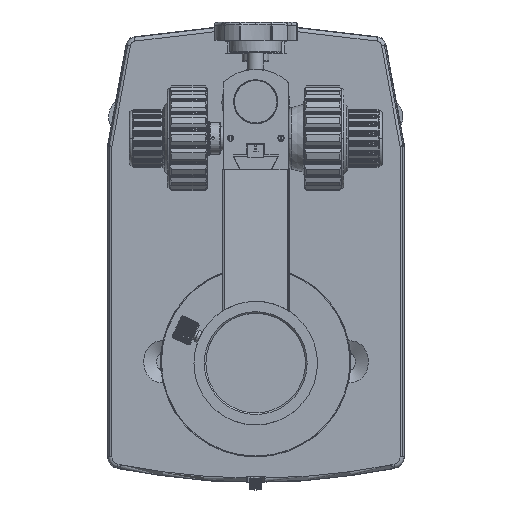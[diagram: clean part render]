
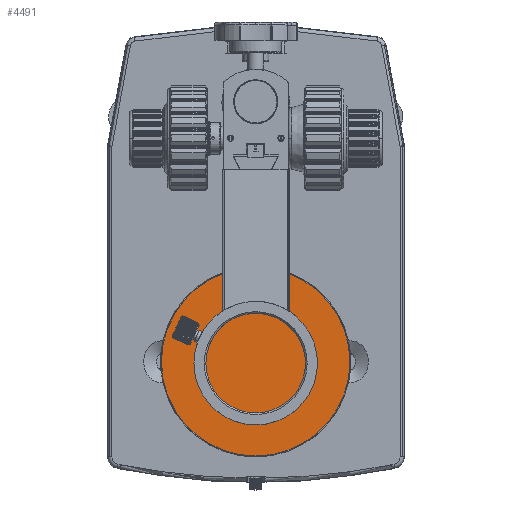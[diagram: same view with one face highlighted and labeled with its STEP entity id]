
A CAD part, top view. The second image highlights one B-rep face of the part: STEP entity #4491.
In plain terms, the highlighted planar face has unit normal (0, 0, 1).
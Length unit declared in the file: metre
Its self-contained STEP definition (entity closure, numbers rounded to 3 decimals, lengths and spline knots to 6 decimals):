
#4491=ADVANCED_FACE('0:37288',(#13287),#13288,.T.);
#13287=FACE_OUTER_BOUND('',#58149,.T.);
#13288=PLANE('',#58150);
#58149=EDGE_LOOP('',(#94562,#94563));
#58150=AXIS2_PLACEMENT_3D('',#94564,#94565,#94566);
#94562=ORIENTED_EDGE('',*,*,#106601,.F.);
#94563=ORIENTED_EDGE('',*,*,#106597,.F.);
#94564=CARTESIAN_POINT('',(-0.000152,-0.053974,0.025089));
#94565=DIRECTION('',(0.0,0.,1.0));
#94566=DIRECTION('',(0.0,1.0,0.));
#106597=EDGE_CURVE('0:40',#124496,#124499,#124500,.T.);
#106601=EDGE_CURVE('0:40',#124499,#124496,#124505,.T.);
#124496=VERTEX_POINT('',#167065);
#124499=VERTEX_POINT('',#167069);
#124500=CIRCLE('',#167070,0.0473);
#124505=CIRCLE('',#167076,0.0473);
#167065=CARTESIAN_POINT('',(0.047148,-0.053974,0.025089));
#167069=CARTESIAN_POINT('',(-0.047452,-0.053974,0.025089));
#167070=AXIS2_PLACEMENT_3D('',#187960,#187961,#187962);
#167076=AXIS2_PLACEMENT_3D('',#187970,#187971,#187972);
#187960=CARTESIAN_POINT('',(-0.000152,-0.053974,0.025089));
#187961=DIRECTION('',(0.0,0.,-1.0));
#187962=DIRECTION('',(1.0,0.0,0.0));
#187970=CARTESIAN_POINT('',(-0.000152,-0.053974,0.025089));
#187971=DIRECTION('',(0.0,0.,-1.0));
#187972=DIRECTION('',(1.0,0.0,0.0));
